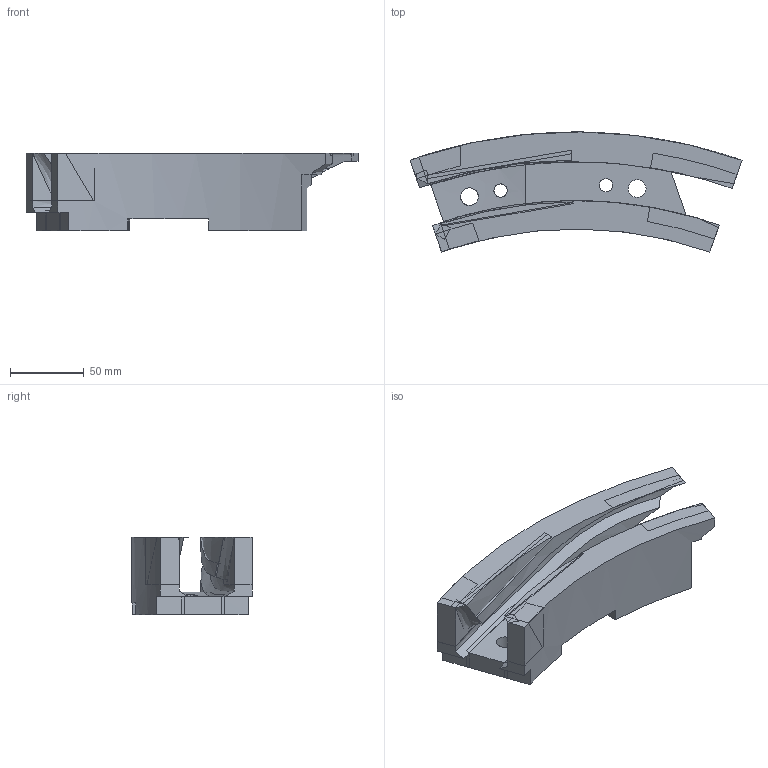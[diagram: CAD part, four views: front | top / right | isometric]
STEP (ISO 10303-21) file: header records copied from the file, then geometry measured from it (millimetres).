
FILE_DESCRIPTION(/* description */ (''),/* implementation_level */ '2;1');
FILE_NAME(/* name */ 'MS_step_Utol',/* time_stamp */ '2025-07-12T08:59:01+03:00',/* author */ (''),/* organization */ (''),/* preprocessor_version */ 'ST-DEVELOPER v20',/* originating_system */ '',/* authorisation */ '');
FILE_SCHEMA (('AUTOMOTIVE_DESIGN { 1 0 10303 214 3 1 1 }'));
Length unit declared in the file: millimetre
Products named in the file (11): TopLevelAssembly; Joined Solid Geometry; Extrusion; Joined Solid Geometry_1; Joined Solid Geometry_2; Joined Solid Geometry_3; Joined Solid Geometry_4; Joined Solid Geometry_5; Extrusion_1; Sweep; Joined Solid Geometry_6
Assembly tree (10 placements, depth 2):
  TopLevelAssembly
    Joined Solid Geometry
    Extrusion
    Joined Solid Geometry_1
    Joined Solid Geometry_2
    Joined Solid Geometry_3
    Joined Solid Geometry_4
    Joined Solid Geometry_5
    Extrusion_1
    Sweep
    Joined Solid Geometry_6
Bounding box: 225.45 x 81.57 x 52.7 mm (x, y, z)
Volume: 395449.9 mm3; surface area: 95097.6 mm2
Topology: 11 solids, 11 shells, 121 faces, 294 edges, 195 vertices
Faces by surface type: plane 67, bspline 33, cylinder 21
Entity records: 6623 total; most frequent: CARTESIAN_POINT 3741, ORIENTED_EDGE 588, DIRECTION 509, EDGE_CURVE 294, VERTEX_POINT 195, AXIS2_PLACEMENT_3D 182, LINE 145, VECTOR 145
